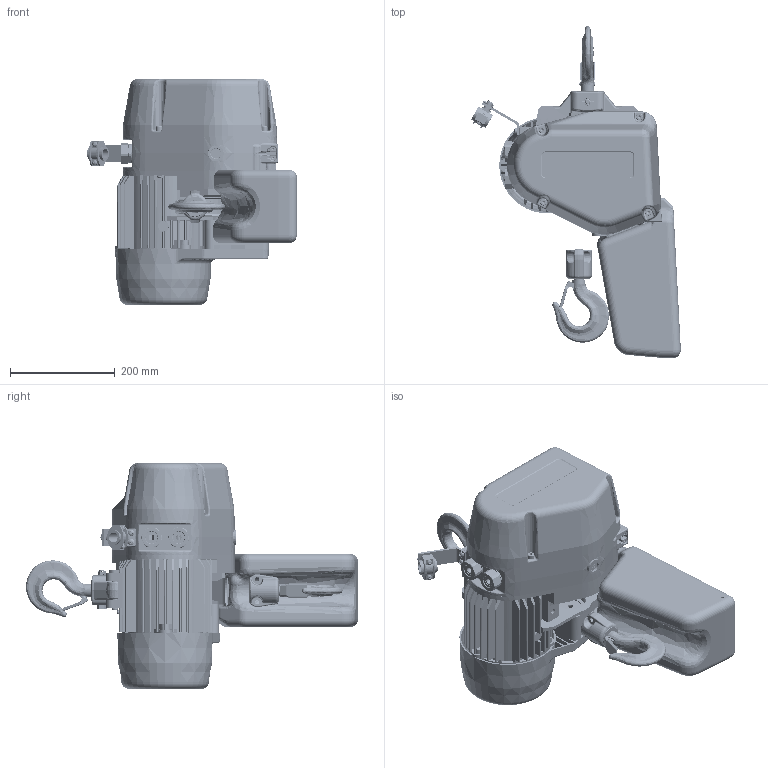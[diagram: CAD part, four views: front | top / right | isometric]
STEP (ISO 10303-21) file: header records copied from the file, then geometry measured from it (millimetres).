
FILE_DESCRIPTION (( 'STEP AP214' ), '1' );
FILE_NAME ('EQ010 HOOK MOUNT.STEP', '2025-09-19T18:40:36', ( '' ), ( '' ), 'SwSTEP 2.0', 'SolidWorks 2025', '' );
FILE_SCHEMA (( 'AUTOMOTIVE_DESIGN' ));
Length unit declared in the file: millimetre
Products named in the file (44): E3ES002-95412-2-HSM_ﾃﾞﾌｫﾙﾄ; J1BE1-0809028_B18.3.1M - 8 x 1.25 x 90 Hex SHCS -- 28CHX; ER1CS9032; N6TA100E91251-0_ﾃﾞﾌｫﾙﾄ; E2YS005-9109; ECP5924AQ1_ﾃﾞﾌｫﾙﾄ; ER2DS90021_ﾃﾞﾌｫﾙﾄ; EQ010 HOOK MOUNT; E5FE003S9111; ECP5924AA1-0-X_ﾃﾞﾌｫﾙﾄ; 9091227_c; J1WH012-10050_J1WH012-10050; ES65005S_90403A872; C2BA100-90741_ISO 7040-M8-N; ECP5924AB1-0-X_ﾃﾞﾌｫﾙﾄ; C2BA005-90744; ECP5924AD1-0-X_ﾃﾞﾌｫﾙﾄ; J1BG10601010_M6X10X10; E1DI94011-112_ﾃﾞﾌｫﾙﾄ; J1AA4-5002020_J1AA4-5002020; EQ1DI1011_ﾃﾞﾌｫﾙﾄ; body-HHI_EQ1BVN10I5A1; EQ1DI90281_1度; 9679709_B18.21.2M-External Tooth Lock Washers_AM6; 9012708_9012708; E2YS005-9116; ECP6912AA1-1-X_ﾃﾞﾌｫﾙﾄ; EQ1DI90091_鋳造用向き変更; ER1BS9003; J1PW01-025018_J1PW01-025018; ISO 1234-1.6x8-C_ISO 1234-1.6x8-C; IE1DI91072-1222_ﾃﾞﾌｫﾙﾄ; CableHolder-X_ﾃﾞﾌｫﾙﾄ; ER2DS90111_ﾃﾞﾌｫﾙﾄ; ER1BS95412_ﾃﾞﾌｫﾙﾄ; EQ1DI2104_ﾃﾞﾌｫﾙﾄ; EQ1DI9121; E4YS005-98222-0-HSM_ﾃﾞﾌｫﾙﾄ; ER1BS9135; E4YS005-28223-0-HSM_ﾃﾞﾌｫﾙﾄ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
Assembly tree (64 placements, depth 3):
  EQ010 HOOK MOUNT
    body-HHI_EQ1BVN10I5A1
    IE1DI91072-1222_ﾃﾞﾌｫﾙﾄ
    EQ1DI9110_ﾃﾞﾌｫﾙﾄ
    EQ1DI2104_ﾃﾞﾌｫﾙﾄ
    EQ1DI10131_ウエフック向き変更
      EQ1DI90091_鋳造用向き変更
      EQ1DI90281_1度
      ER2DS90021_ﾃﾞﾌｫﾙﾄ
      ER1CS9032
      J1NL001-10100_J1NL001-10100
      J1PW01-025018_J1PW01-025018
      ER1BS9003
      C2BA005-90744
    E1DI94011-112_ﾃﾞﾌｫﾙﾄ
    J1BG10601010_M6X10X10  x2
    EQ1DI9121  x2
    J1BE1-0809028_B18.3.1M - 8 x 1.25 x 90 Hex SHCS -- 28CHX  x5
    9091227_c  x4
    J1WH012-10050_J1WH012-10050  x4
    C2BA100-90741_ISO 7040-M8-N
    E2YS005-9109
    E5FE003S9111
    E2YS005-9116
    ER1BS9135
    EQ1DI1011_ﾃﾞﾌｫﾙﾄ
      IE1DI90151-1018_ﾃﾞﾌｫﾙﾄ  x2
      ER2DS90111_ﾃﾞﾌｫﾙﾄ
      ER2DS90021_ﾃﾞﾌｫﾙﾄ
    E4YS005-28223-0-HSM_ﾃﾞﾌｫﾙﾄ
      E4YS005-98222-0-HSM_ﾃﾞﾌｫﾙﾄ
      E3ES002-95412-2-HSM_ﾃﾞﾌｫﾙﾄ
      9012708_9012708  x2
      N6TA100E91251-0_ﾃﾞﾌｫﾙﾄ
      J1AA4-5002020_J1AA4-5002020  x2
      ISO 1234-1.6x8-C_ISO 1234-1.6x8-C
    ER1BS95412_ﾃﾞﾌｫﾙﾄ
    ES65005S_90403A872  x2
    CableHolder-X_ﾃﾞﾌｫﾙﾄ  x2
      ECP5924AB1-0-X_ﾃﾞﾌｫﾙﾄ
      ECP5924AQ1_ﾃﾞﾌｫﾙﾄ
      ECP5924AA1-0-X_ﾃﾞﾌｫﾙﾄ
      ECP5924AD1-0-X_ﾃﾞﾌｫﾙﾄ
      ECP6912AA1-1-X_ﾃﾞﾌｫﾙﾄ
    9679709_B18.21.2M-External Tooth Lock Washers_AM6  x4
Bounding box: 400.23 x 633.61 x 431 mm (x, y, z)
Volume: 4859349.2 mm3; surface area: 1995590.1 mm2
Topology: 68 solids, 68 shells, 6501 faces, 16546 edges, 10234 vertices
Faces by surface type: plane 2319, cylinder 1776, bspline 915, cone 894, torus 465, sphere 132
Entity records: 227427 total; most frequent: CARTESIAN_POINT 82582, ORIENTED_EDGE 27138, DIRECTION 24676, EDGE_CURVE 13569, AXIS2_PLACEMENT_3D 9372, VERTEX_POINT 8421, LINE 5932, VECTOR 5932
